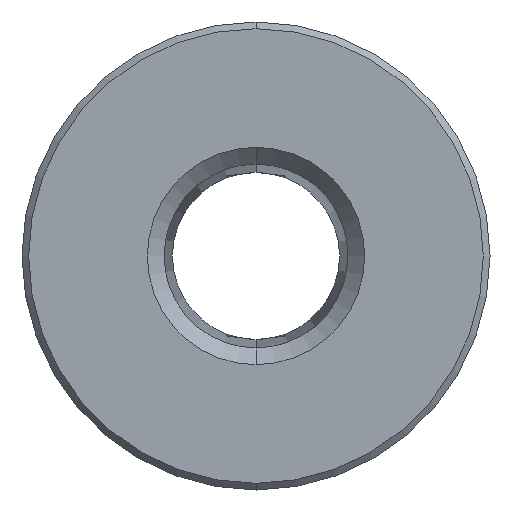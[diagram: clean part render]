
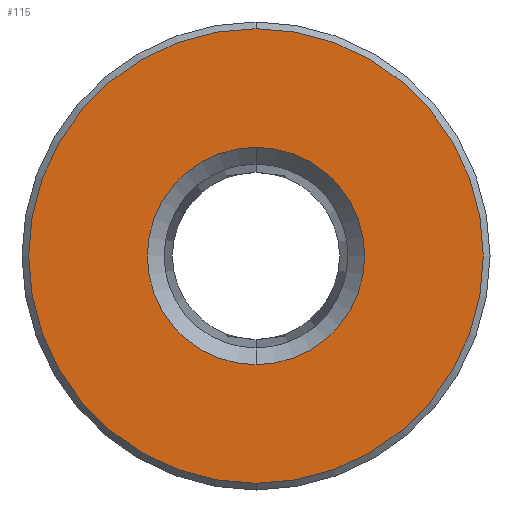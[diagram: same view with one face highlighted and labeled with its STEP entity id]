
A CAD part, front view. The second image highlights one B-rep face of the part: STEP entity #115.
In plain terms, the highlighted planar face has unit normal (0, -1, 0).
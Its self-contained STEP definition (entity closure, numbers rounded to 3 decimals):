
#12 = EDGE_CURVE ( 'NONE', #49, #524, #455, .T. ) ;
#37 = EDGE_CURVE ( 'NONE', #60, #436, #234, .T. ) ;
#38 = DIRECTION ( 'NONE',  ( 0., -1., 0. ) ) ;
#39 = ORIENTED_EDGE ( 'NONE', *, *, #352, .T. ) ;
#45 = CARTESIAN_POINT ( 'NONE',  ( 0., 0., 0. ) ) ;
#49 = VERTEX_POINT ( 'NONE', #147 ) ;
#54 = CARTESIAN_POINT ( 'NONE',  ( 0., 0., 0. ) ) ;
#60 = VERTEX_POINT ( 'NONE', #488 ) ;
#66 = PLANE ( 'NONE',  #317 ) ;
#71 = CIRCLE ( 'NONE', #419, 6.8 ) ;
#101 = FACE_OUTER_BOUND ( 'NONE', #195, .T. ) ;
#109 = ORIENTED_EDGE ( 'NONE', *, *, #12, .T. ) ;
#110 = FACE_BOUND ( 'NONE', #344, .T. ) ;
#115 = ADVANCED_FACE ( 'NONE', ( #110, #101 ), #66, .T. ) ;
#118 = AXIS2_PLACEMENT_3D ( 'NONE', #45, #38, #278 ) ;
#125 = CARTESIAN_POINT ( 'NONE',  ( 0., 0., 0. ) ) ;
#147 = CARTESIAN_POINT ( 'NONE',  ( 0., 0., 3.25 ) ) ;
#158 = ORIENTED_EDGE ( 'NONE', *, *, #561, .T. ) ;
#195 = EDGE_LOOP ( 'NONE', ( #39, #487 ) ) ;
#234 = CIRCLE ( 'NONE', #118, 6.8 ) ;
#278 = DIRECTION ( 'NONE',  ( 0., 0., -1. ) ) ;
#294 = DIRECTION ( 'NONE',  ( 0., 0., -1. ) ) ;
#304 = CARTESIAN_POINT ( 'NONE',  ( 0., 0., -3.25 ) ) ;
#316 = DIRECTION ( 'NONE',  ( 0., 1., 0. ) ) ;
#317 = AXIS2_PLACEMENT_3D ( 'NONE', #491, #359, #445 ) ;
#344 = EDGE_LOOP ( 'NONE', ( #158, #109 ) ) ;
#352 = EDGE_CURVE ( 'NONE', #436, #60, #71, .T. ) ;
#359 = DIRECTION ( 'NONE',  ( 0., -1., 0. ) ) ;
#381 = CARTESIAN_POINT ( 'NONE',  ( 0., 0., 0. ) ) ;
#387 = DIRECTION ( 'NONE',  ( 0., 1., 0. ) ) ;
#388 = DIRECTION ( 'NONE',  ( 0., 0., -1. ) ) ;
#389 = AXIS2_PLACEMENT_3D ( 'NONE', #54, #387, #294 ) ;
#419 = AXIS2_PLACEMENT_3D ( 'NONE', #381, #579, #388 ) ;
#436 = VERTEX_POINT ( 'NONE', #595 ) ;
#445 = DIRECTION ( 'NONE',  ( 0., 0., -1. ) ) ;
#455 = CIRCLE ( 'NONE', #389, 3.25 ) ;
#458 = AXIS2_PLACEMENT_3D ( 'NONE', #125, #316, #471 ) ;
#471 = DIRECTION ( 'NONE',  ( 0., 0., -1. ) ) ;
#487 = ORIENTED_EDGE ( 'NONE', *, *, #37, .T. ) ;
#488 = CARTESIAN_POINT ( 'NONE',  ( 0., 0., -6.8 ) ) ;
#491 = CARTESIAN_POINT ( 'NONE',  ( -7., 0., 0. ) ) ;
#524 = VERTEX_POINT ( 'NONE', #304 ) ;
#561 = EDGE_CURVE ( 'NONE', #524, #49, #612, .T. ) ;
#579 = DIRECTION ( 'NONE',  ( 0., -1., 0. ) ) ;
#595 = CARTESIAN_POINT ( 'NONE',  ( 0., 0., 6.8 ) ) ;
#612 = CIRCLE ( 'NONE', #458, 3.25 ) ;
